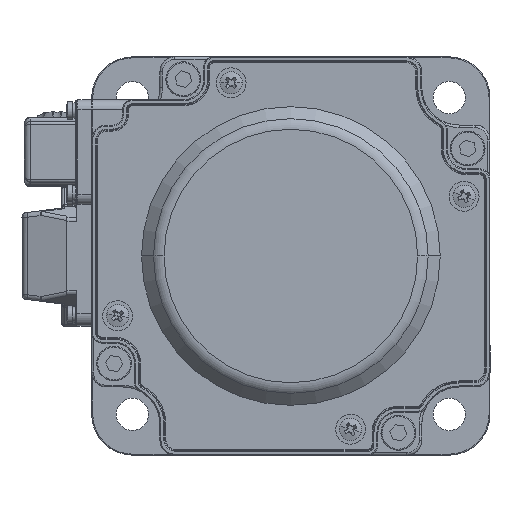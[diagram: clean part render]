
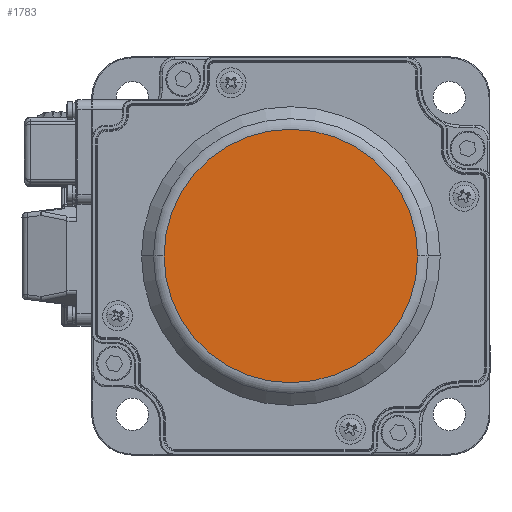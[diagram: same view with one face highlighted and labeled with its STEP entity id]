
A CAD part, left-side view. The second image highlights one B-rep face of the part: STEP entity #1783.
In plain terms, the highlighted planar face has unit normal (-1, 0, 0).
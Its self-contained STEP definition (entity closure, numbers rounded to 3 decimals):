
#1783 = ADVANCED_FACE ( 'NONE', ( #62712 ), #34688, .F. ) ;
#4724 = AXIS2_PLACEMENT_3D ( 'NONE', #31535, #38171, #59861 ) ;
#6741 = ORIENTED_EDGE ( 'NONE', *, *, #34535, .T. ) ;
#13272 = CARTESIAN_POINT ( 'NONE',  ( -55.428, 0., 61.985 ) ) ;
#24640 = VERTEX_POINT ( 'NONE', #52304 ) ;
#30606 = DIRECTION ( 'NONE',  ( 1., 0., 0. ) ) ;
#31190 = EDGE_LOOP ( 'NONE', ( #6741, #71369 ) ) ;
#31265 = CARTESIAN_POINT ( 'NONE',  ( -55.428, 25.457, 61.985 ) ) ;
#31535 = CARTESIAN_POINT ( 'NONE',  ( -55.428, 0., 61.985 ) ) ;
#33146 = CARTESIAN_POINT ( 'NONE',  ( -55.428, 0., 61.985 ) ) ;
#34418 = AXIS2_PLACEMENT_3D ( 'NONE', #13272, #30606, #47593 ) ;
#34535 = EDGE_CURVE ( 'NONE', #46367, #24640, #36602, .T. ) ;
#34688 = PLANE ( 'NONE',  #34418 ) ;
#36602 = CIRCLE ( 'NONE', #4724, 25.457 ) ;
#37566 = CIRCLE ( 'NONE', #41096, 25.457 ) ;
#38171 = DIRECTION ( 'NONE',  ( -1., 0., 0. ) ) ;
#41096 = AXIS2_PLACEMENT_3D ( 'NONE', #33146, #49014, #44989 ) ;
#44989 = DIRECTION ( 'NONE',  ( 0., 1., 0. ) ) ;
#46367 = VERTEX_POINT ( 'NONE', #31265 ) ;
#47593 = DIRECTION ( 'NONE',  ( 0., 1., 0. ) ) ;
#49014 = DIRECTION ( 'NONE',  ( -1., 0., 0. ) ) ;
#52304 = CARTESIAN_POINT ( 'NONE',  ( -55.428, -25.457, 61.985 ) ) ;
#58487 = EDGE_CURVE ( 'NONE', #24640, #46367, #37566, .T. ) ;
#59861 = DIRECTION ( 'NONE',  ( 0., 1., 0. ) ) ;
#62712 = FACE_OUTER_BOUND ( 'NONE', #31190, .T. ) ;
#71369 = ORIENTED_EDGE ( 'NONE', *, *, #58487, .T. ) ;
